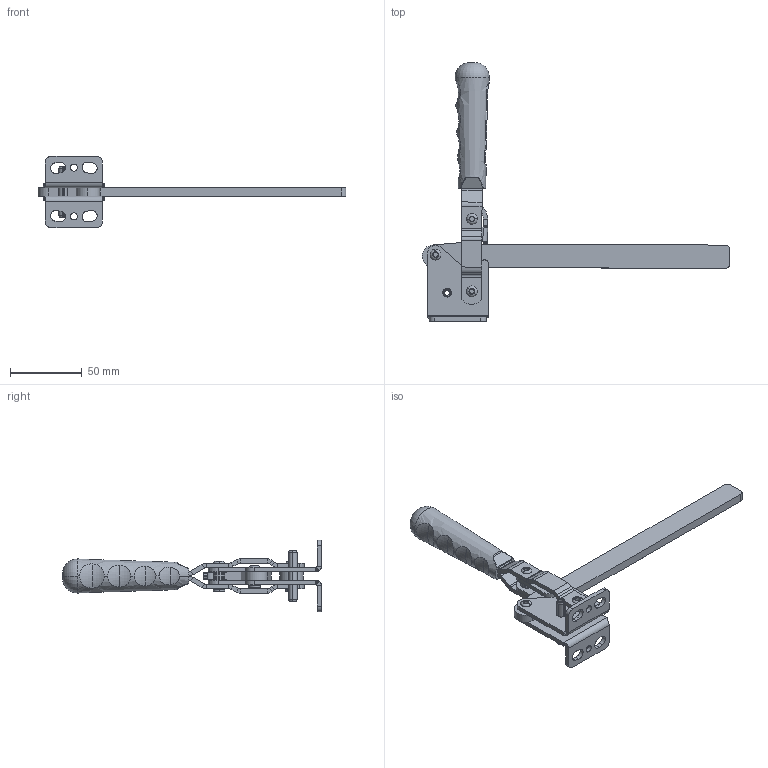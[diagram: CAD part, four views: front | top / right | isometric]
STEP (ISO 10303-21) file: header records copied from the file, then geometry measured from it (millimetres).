
FILE_DESCRIPTION (( 'STEP AP214' ), '1' );
FILE_NAME ('1103-Y-L.STEP', '2022-05-31T12:45:13', ( '' ), ( '' ), 'SwSTEP 2.0', 'SolidWorks 2020', '' );
FILE_SCHEMA (( 'AUTOMOTIVE_DESIGN' ));
Length unit declared in the file: millimetre
Products named in the file (14): C90_Yeni_Tutamak; 1103 HAREKET KOLU_2022; 5x17_PERﾇﾝN; 8x5x6_BURÇ; 6x36_YARIKLI_P嵱; 1103_DESTEK_YÜZÜÐÜ; Aynalama1103 HAREKET KOLU_2022; 8x5x12_BURÇ; 1103 L-3; 1103-Y-L; Aynalama1103_Y_FN; 5x22_PERﾇﾝN; 1103_Y_FN; 1103 MAFSAL_2022
Assembly tree (17 placements, depth 2):
  1103-Y-L
    1103 HAREKET KOLU_2022
    1103 MAFSAL_2022
    8x5x12_BURÇ  x2
    8x5x6_BURÇ  x2
    5x22_PERﾇﾝN  x2
    5x17_PERﾇﾝN  x2
    6x36_YARIKLI_P嵱
    1103_DESTEK_YÜZÜÐÜ
    1103_Y_FN
    Aynalama1103_Y_FN
    Aynalama1103 HAREKET KOLU_2022
    C90_Yeni_Tutamak
    1103 L-3
Bounding box: 215.13 x 180.77 x 49.96 mm (x, y, z)
Volume: 78033.6 mm3; surface area: 51251.9 mm2
Topology: 17 solids, 17 shells, 1056 faces, 2626 edges, 1669 vertices
Faces by surface type: plane 703, cylinder 228, bspline 45, cone 40, torus 36, sphere 4
Entity records: 26442 total; most frequent: CARTESIAN_POINT 6674, ORIENTED_EDGE 3980, DIRECTION 3902, EDGE_CURVE 1990, VECTOR 1308, LINE 1308, AXIS2_PLACEMENT_3D 1297, VERTEX_POINT 1261
